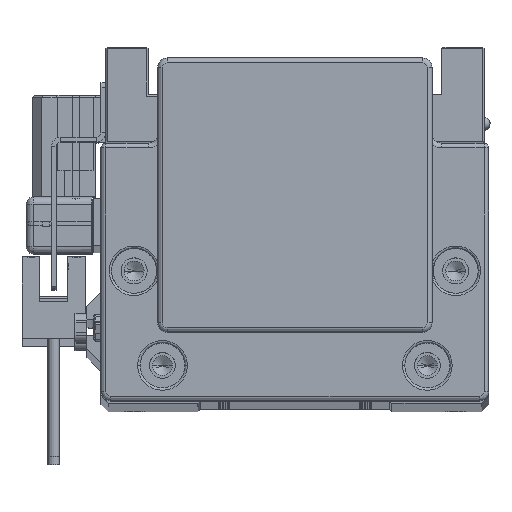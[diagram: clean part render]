
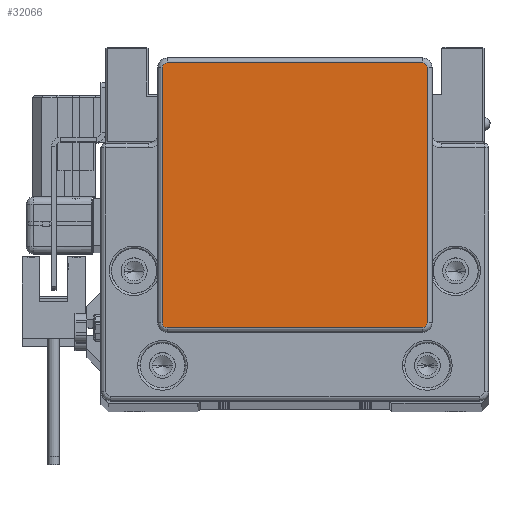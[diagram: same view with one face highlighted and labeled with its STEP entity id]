
A CAD part, top view. The second image highlights one B-rep face of the part: STEP entity #32066.
In plain terms, the highlighted planar face has unit normal (0, 0, 1).
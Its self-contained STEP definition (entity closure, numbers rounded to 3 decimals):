
#1020 = VERTEX_POINT ( 'NONE', #45948 ) ;
#1057 = EDGE_CURVE ( 'NONE', #10492, #6887, #6359, .T. ) ;
#1092 = AXIS2_PLACEMENT_3D ( 'NONE', #20905, #48280, #4468 ) ;
#2327 = LINE ( 'NONE', #36937, #5329 ) ;
#4325 = CARTESIAN_POINT ( 'NONE',  ( 28., 34.25, 17. ) ) ;
#4468 = DIRECTION ( 'NONE',  ( 1., 0., 0. ) ) ;
#5329 = VECTOR ( 'NONE', #55048, 1000. ) ;
#5717 = DIRECTION ( 'NONE',  ( 0., 0., 1. ) ) ;
#6359 = CIRCLE ( 'NONE', #26665, 1. ) ;
#6887 = VERTEX_POINT ( 'NONE', #15408 ) ;
#7310 = DIRECTION ( 'NONE',  ( 0., 0., 1. ) ) ;
#8487 = DIRECTION ( 'NONE',  ( 0., 0., 1. ) ) ;
#8794 = CIRCLE ( 'NONE', #39172, 1. ) ;
#8992 = CIRCLE ( 'NONE', #31095, 1. ) ;
#9894 = CARTESIAN_POINT ( 'NONE',  ( 28., -19.75, 17. ) ) ;
#10305 = VERTEX_POINT ( 'NONE', #46248 ) ;
#10492 = VERTEX_POINT ( 'NONE', #52842 ) ;
#11381 = ORIENTED_EDGE ( 'NONE', *, *, #29097, .T. ) ;
#11651 = PLANE ( 'NONE',  #25112 ) ;
#11909 = CARTESIAN_POINT ( 'NONE',  ( -27., 34.25, 17. ) ) ;
#13581 = DIRECTION ( 'NONE',  ( 1., 0., 0. ) ) ;
#15062 = CARTESIAN_POINT ( 'NONE',  ( -27., -19.75, 17. ) ) ;
#15126 = EDGE_CURVE ( 'NONE', #21734, #48494, #8794, .T. ) ;
#15356 = EDGE_CURVE ( 'NONE', #6887, #21734, #38372, .T. ) ;
#15408 = CARTESIAN_POINT ( 'NONE',  ( -28., 34.25, 17. ) ) ;
#15617 = DIRECTION ( 'NONE',  ( 0., 0., 1. ) ) ;
#16210 = CARTESIAN_POINT ( 'NONE',  ( 27., -20.75, 17. ) ) ;
#19627 = ORIENTED_EDGE ( 'NONE', *, *, #1057, .T. ) ;
#20711 = VERTEX_POINT ( 'NONE', #4325 ) ;
#20905 = CARTESIAN_POINT ( 'NONE',  ( 27., 34.25, 17. ) ) ;
#21022 = VECTOR ( 'NONE', #47302, 1000. ) ;
#21171 = CARTESIAN_POINT ( 'NONE',  ( -27., -19.75, 17. ) ) ;
#21492 = DIRECTION ( 'NONE',  ( -1., 0., 0. ) ) ;
#21734 = VERTEX_POINT ( 'NONE', #30664 ) ;
#24896 = DIRECTION ( 'NONE',  ( 1., 0., 0. ) ) ;
#25112 = AXIS2_PLACEMENT_3D ( 'NONE', #21171, #8487, #47672 ) ;
#26665 = AXIS2_PLACEMENT_3D ( 'NONE', #11909, #7310, #24896 ) ;
#27629 = CARTESIAN_POINT ( 'NONE',  ( 27., -19.75, 17. ) ) ;
#27973 = EDGE_CURVE ( 'NONE', #1020, #10492, #43385, .T. ) ;
#28891 = DIRECTION ( 'NONE',  ( 1., 0., 0. ) ) ;
#29097 = EDGE_CURVE ( 'NONE', #20711, #1020, #51678, .T. ) ;
#30664 = CARTESIAN_POINT ( 'NONE',  ( -28., -19.75, 17. ) ) ;
#31095 = AXIS2_PLACEMENT_3D ( 'NONE', #27629, #5717, #54704 ) ;
#31706 = ORIENTED_EDGE ( 'NONE', *, *, #34073, .T. ) ;
#32066 = ADVANCED_FACE ( 'NONE', ( #47395 ), #11651, .T. ) ;
#34051 = CARTESIAN_POINT ( 'NONE',  ( -28., -19.75, 17. ) ) ;
#34073 = EDGE_CURVE ( 'NONE', #45087, #20711, #2327, .T. ) ;
#36937 = CARTESIAN_POINT ( 'NONE',  ( 28., 34.25, 17. ) ) ;
#37842 = LINE ( 'NONE', #16210, #48337 ) ;
#37956 = CARTESIAN_POINT ( 'NONE',  ( -27., -20.75, 17. ) ) ;
#38372 = LINE ( 'NONE', #34051, #21022 ) ;
#39172 = AXIS2_PLACEMENT_3D ( 'NONE', #15062, #15617, #28891 ) ;
#40594 = ORIENTED_EDGE ( 'NONE', *, *, #15126, .T. ) ;
#43385 = LINE ( 'NONE', #52593, #46948 ) ;
#44513 = ORIENTED_EDGE ( 'NONE', *, *, #44758, .T. ) ;
#44758 = EDGE_CURVE ( 'NONE', #10305, #45087, #8992, .T. ) ;
#45087 = VERTEX_POINT ( 'NONE', #9894 ) ;
#45249 = ORIENTED_EDGE ( 'NONE', *, *, #55496, .T. ) ;
#45705 = ORIENTED_EDGE ( 'NONE', *, *, #15356, .T. ) ;
#45948 = CARTESIAN_POINT ( 'NONE',  ( 27., 35.25, 17. ) ) ;
#46248 = CARTESIAN_POINT ( 'NONE',  ( 27., -20.75, 17. ) ) ;
#46948 = VECTOR ( 'NONE', #21492, 1000. ) ;
#47302 = DIRECTION ( 'NONE',  ( 0., -1., 0. ) ) ;
#47395 = FACE_OUTER_BOUND ( 'NONE', #55499, .T. ) ;
#47672 = DIRECTION ( 'NONE',  ( 1., 0., 0. ) ) ;
#48280 = DIRECTION ( 'NONE',  ( 0., 0., 1. ) ) ;
#48337 = VECTOR ( 'NONE', #13581, 1000. ) ;
#48494 = VERTEX_POINT ( 'NONE', #37956 ) ;
#50523 = ORIENTED_EDGE ( 'NONE', *, *, #27973, .T. ) ;
#51678 = CIRCLE ( 'NONE', #1092, 1. ) ;
#52593 = CARTESIAN_POINT ( 'NONE',  ( -27., 35.25, 17. ) ) ;
#52842 = CARTESIAN_POINT ( 'NONE',  ( -27., 35.25, 17. ) ) ;
#54704 = DIRECTION ( 'NONE',  ( 1., 0., 0. ) ) ;
#55048 = DIRECTION ( 'NONE',  ( 0., 1., 0. ) ) ;
#55496 = EDGE_CURVE ( 'NONE', #48494, #10305, #37842, .T. ) ;
#55499 = EDGE_LOOP ( 'NONE', ( #50523, #19627, #45705, #40594, #45249, #44513, #31706, #11381 ) ) ;
